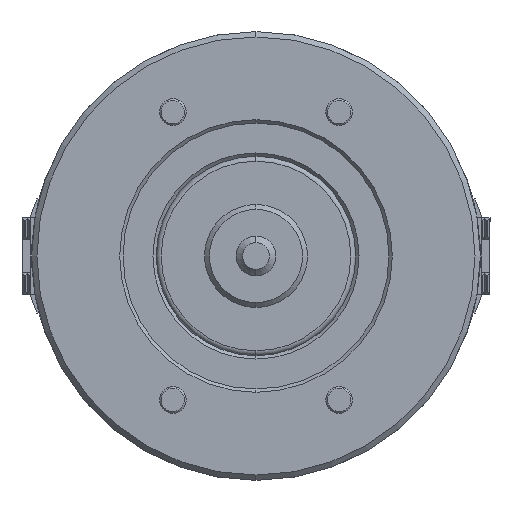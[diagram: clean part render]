
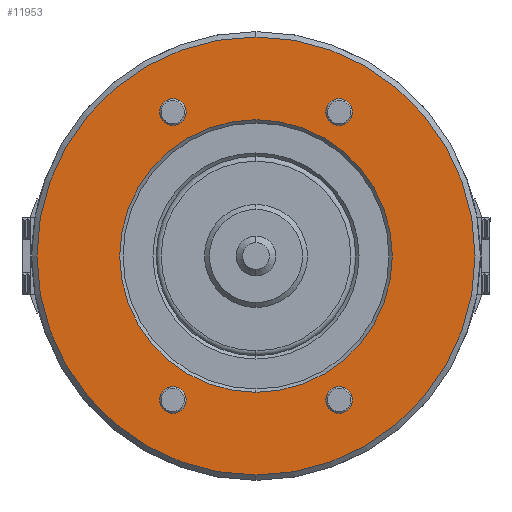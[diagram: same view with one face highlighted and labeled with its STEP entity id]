
A CAD part, left-side view. The second image highlights one B-rep face of the part: STEP entity #11953.
In plain terms, the highlighted planar face has unit normal (-1, 0, 0) as drawn and (0, 0, -1) by its records, which use the part's own axes.
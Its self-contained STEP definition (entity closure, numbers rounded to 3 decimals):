
#203 = AXIS2_PLACEMENT_3D ( 'NONE', #34313, #15846, #37406 ) ;
#1083 = VERTEX_POINT ( 'NONE', #26701 ) ;
#1639 = DIRECTION ( 'NONE',  ( 1., 0., 0. ) ) ;
#1748 = VERTEX_POINT ( 'NONE', #15203 ) ;
#1785 = DIRECTION ( 'NONE',  ( 1., 0., 0. ) ) ;
#2116 = DIRECTION ( 'NONE',  ( 0., 0., -1. ) ) ;
#2649 = EDGE_LOOP ( 'NONE', ( #19943, #29601 ) ) ;
#2909 = DIRECTION ( 'NONE',  ( 1., 0., 0. ) ) ;
#4470 = CARTESIAN_POINT ( 'NONE',  ( 43.301, -25., -55. ) ) ;
#4558 = DIRECTION ( 'NONE',  ( 0., 0., -1. ) ) ;
#4794 = CIRCLE ( 'NONE', #32382, 4. ) ;
#5084 = FACE_BOUND ( 'NONE', #29169, .T. ) ;
#5456 = VERTEX_POINT ( 'NONE', #14579 ) ;
#6166 = AXIS2_PLACEMENT_3D ( 'NONE', #18427, #39959, #21533 ) ;
#6198 = EDGE_CURVE ( 'NONE', #15890, #6576, #24368, .T. ) ;
#6290 = EDGE_CURVE ( 'NONE', #25234, #1083, #11313, .T. ) ;
#6321 = EDGE_CURVE ( 'NONE', #1083, #25234, #26753, .T. ) ;
#6576 = VERTEX_POINT ( 'NONE', #12807 ) ;
#7158 = VERTEX_POINT ( 'NONE', #12758 ) ;
#7493 = CIRCLE ( 'NONE', #16713, 65.9 ) ;
#7609 = DIRECTION ( 'NONE',  ( 1., 0., 0. ) ) ;
#8345 = CARTESIAN_POINT ( 'NONE',  ( 43.301, -25., -55. ) ) ;
#8395 = AXIS2_PLACEMENT_3D ( 'NONE', #39855, #21430, #2909 ) ;
#9953 = ORIENTED_EDGE ( 'NONE', *, *, #30863, .F. ) ;
#11072 = DIRECTION ( 'NONE',  ( 0., 0., -1. ) ) ;
#11313 = CIRCLE ( 'NONE', #31762, 4. ) ;
#11422 = DIRECTION ( 'NONE',  ( 1., 0., 0. ) ) ;
#11424 = ORIENTED_EDGE ( 'NONE', *, *, #35153, .T. ) ;
#11562 = CIRCLE ( 'NONE', #15832, 4. ) ;
#11863 = DIRECTION ( 'NONE',  ( 0., 0., 1. ) ) ;
#11881 = CARTESIAN_POINT ( 'NONE',  ( 47.301, -25., -55. ) ) ;
#11953 = ADVANCED_FACE ( 'NONE', ( #37825, #28692, #5084, #21466, #20513, #36873 ), #24136, .F. ) ;
#12758 = CARTESIAN_POINT ( 'NONE',  ( -47.301, 25., -55. ) ) ;
#12807 = CARTESIAN_POINT ( 'NONE',  ( 39.301, -25., -55. ) ) ;
#12902 = CARTESIAN_POINT ( 'NONE',  ( 41., 0., -55. ) ) ;
#12904 = CIRCLE ( 'NONE', #203, 41. ) ;
#13974 = EDGE_LOOP ( 'NONE', ( #20288, #11424 ) ) ;
#14294 = ORIENTED_EDGE ( 'NONE', *, *, #23506, .F. ) ;
#14579 = CARTESIAN_POINT ( 'NONE',  ( -41., 0., -55. ) ) ;
#14949 = AXIS2_PLACEMENT_3D ( 'NONE', #23032, #4558, #26137 ) ;
#15203 = CARTESIAN_POINT ( 'NONE',  ( 65.9, 0., -55. ) ) ;
#15832 = AXIS2_PLACEMENT_3D ( 'NONE', #38621, #20197, #1639 ) ;
#15846 = DIRECTION ( 'NONE',  ( 0., 0., 1. ) ) ;
#15890 = VERTEX_POINT ( 'NONE', #11881 ) ;
#15965 = EDGE_CURVE ( 'NONE', #1748, #20804, #16313, .T. ) ;
#16281 = EDGE_CURVE ( 'NONE', #17201, #17172, #11562, .T. ) ;
#16313 = CIRCLE ( 'NONE', #8395, 65.9 ) ;
#16435 = EDGE_CURVE ( 'NONE', #37367, #7158, #4794, .T. ) ;
#16713 = AXIS2_PLACEMENT_3D ( 'NONE', #17417, #38960, #20538 ) ;
#17117 = CARTESIAN_POINT ( 'NONE',  ( -39.301, -25., -55. ) ) ;
#17139 = ORIENTED_EDGE ( 'NONE', *, *, #17919, .F. ) ;
#17172 = VERTEX_POINT ( 'NONE', #38528 ) ;
#17201 = VERTEX_POINT ( 'NONE', #17117 ) ;
#17417 = CARTESIAN_POINT ( 'NONE',  ( 0., 0., -55. ) ) ;
#17765 = CARTESIAN_POINT ( 'NONE',  ( -43.301, 25., -55. ) ) ;
#17919 = EDGE_CURVE ( 'NONE', #6576, #15890, #35012, .T. ) ;
#18000 = EDGE_LOOP ( 'NONE', ( #18988, #9953 ) ) ;
#18427 = CARTESIAN_POINT ( 'NONE',  ( 0., 0., -55. ) ) ;
#18680 = ORIENTED_EDGE ( 'NONE', *, *, #6321, .F. ) ;
#18988 = ORIENTED_EDGE ( 'NONE', *, *, #15965, .F. ) ;
#19391 = AXIS2_PLACEMENT_3D ( 'NONE', #4470, #26046, #7609 ) ;
#19470 = CIRCLE ( 'NONE', #6166, 41. ) ;
#19825 = CARTESIAN_POINT ( 'NONE',  ( -39.301, 25., -55. ) ) ;
#19943 = ORIENTED_EDGE ( 'NONE', *, *, #22049, .F. ) ;
#20197 = DIRECTION ( 'NONE',  ( 0., 0., -1. ) ) ;
#20288 = ORIENTED_EDGE ( 'NONE', *, *, #31596, .T. ) ;
#20341 = DIRECTION ( 'NONE',  ( 0., 0., -1. ) ) ;
#20427 = CARTESIAN_POINT ( 'NONE',  ( 47.301, 25., -55. ) ) ;
#20513 = FACE_BOUND ( 'NONE', #13974, .T. ) ;
#20538 = DIRECTION ( 'NONE',  ( 1., 0., 0. ) ) ;
#20651 = CARTESIAN_POINT ( 'NONE',  ( 43.301, 25., -55. ) ) ;
#20804 = VERTEX_POINT ( 'NONE', #22172 ) ;
#20872 = DIRECTION ( 'NONE',  ( 1., 0., 0. ) ) ;
#21430 = DIRECTION ( 'NONE',  ( 0., 0., 1. ) ) ;
#21464 = AXIS2_PLACEMENT_3D ( 'NONE', #38757, #20341, #1785 ) ;
#21466 = FACE_OUTER_BOUND ( 'NONE', #18000, .T. ) ;
#21533 = DIRECTION ( 'NONE',  ( 1., 0., 0. ) ) ;
#22049 = EDGE_CURVE ( 'NONE', #17172, #17201, #25862, .T. ) ;
#22172 = CARTESIAN_POINT ( 'NONE',  ( -65.9, 0., -55. ) ) ;
#23032 = CARTESIAN_POINT ( 'NONE',  ( -43.301, -25., -55. ) ) ;
#23506 = EDGE_CURVE ( 'NONE', #7158, #37367, #27707, .T. ) ;
#23742 = DIRECTION ( 'NONE',  ( 1., 0., 0. ) ) ;
#24136 = PLANE ( 'NONE',  #30877 ) ;
#24368 = CIRCLE ( 'NONE', #19391, 4. ) ;
#25234 = VERTEX_POINT ( 'NONE', #20427 ) ;
#25862 = CIRCLE ( 'NONE', #14949, 4. ) ;
#26046 = DIRECTION ( 'NONE',  ( 0., 0., -1. ) ) ;
#26137 = DIRECTION ( 'NONE',  ( 1., 0., 0. ) ) ;
#26701 = CARTESIAN_POINT ( 'NONE',  ( 39.301, 25., -55. ) ) ;
#26753 = CIRCLE ( 'NONE', #40011, 4. ) ;
#27215 = CARTESIAN_POINT ( 'NONE',  ( 0., -41., -55. ) ) ;
#27707 = CIRCLE ( 'NONE', #21464, 4. ) ;
#28692 = FACE_BOUND ( 'NONE', #32643, .T. ) ;
#29169 = EDGE_LOOP ( 'NONE', ( #39962, #17139 ) ) ;
#29288 = ORIENTED_EDGE ( 'NONE', *, *, #6290, .F. ) ;
#29522 = CARTESIAN_POINT ( 'NONE',  ( 43.301, 25., -55. ) ) ;
#29601 = ORIENTED_EDGE ( 'NONE', *, *, #16281, .F. ) ;
#29731 = EDGE_LOOP ( 'NONE', ( #14294, #30919 ) ) ;
#29867 = DIRECTION ( 'NONE',  ( 0., 0., -1. ) ) ;
#30863 = EDGE_CURVE ( 'NONE', #20804, #1748, #7493, .T. ) ;
#30877 = AXIS2_PLACEMENT_3D ( 'NONE', #27215, #11863, #33393 ) ;
#30919 = ORIENTED_EDGE ( 'NONE', *, *, #16435, .F. ) ;
#31596 = EDGE_CURVE ( 'NONE', #5456, #31732, #19470, .T. ) ;
#31732 = VERTEX_POINT ( 'NONE', #12902 ) ;
#31762 = AXIS2_PLACEMENT_3D ( 'NONE', #29522, #11072, #32630 ) ;
#32382 = AXIS2_PLACEMENT_3D ( 'NONE', #17765, #39297, #20872 ) ;
#32630 = DIRECTION ( 'NONE',  ( 1., 0., 0. ) ) ;
#32643 = EDGE_LOOP ( 'NONE', ( #29288, #18680 ) ) ;
#33393 = DIRECTION ( 'NONE',  ( 1., 0., 0. ) ) ;
#34313 = CARTESIAN_POINT ( 'NONE',  ( 0., 0., -55. ) ) ;
#35012 = CIRCLE ( 'NONE', #36800, 4. ) ;
#35153 = EDGE_CURVE ( 'NONE', #31732, #5456, #12904, .T. ) ;
#36800 = AXIS2_PLACEMENT_3D ( 'NONE', #8345, #29867, #11422 ) ;
#36873 = FACE_BOUND ( 'NONE', #29731, .T. ) ;
#37367 = VERTEX_POINT ( 'NONE', #19825 ) ;
#37406 = DIRECTION ( 'NONE',  ( 1., 0., 0. ) ) ;
#37825 = FACE_BOUND ( 'NONE', #2649, .T. ) ;
#38528 = CARTESIAN_POINT ( 'NONE',  ( -47.301, -25., -55. ) ) ;
#38621 = CARTESIAN_POINT ( 'NONE',  ( -43.301, -25., -55. ) ) ;
#38757 = CARTESIAN_POINT ( 'NONE',  ( -43.301, 25., -55. ) ) ;
#38960 = DIRECTION ( 'NONE',  ( 0., 0., 1. ) ) ;
#39297 = DIRECTION ( 'NONE',  ( 0., 0., -1. ) ) ;
#39855 = CARTESIAN_POINT ( 'NONE',  ( 0., 0., -55. ) ) ;
#39959 = DIRECTION ( 'NONE',  ( 0., 0., 1. ) ) ;
#39962 = ORIENTED_EDGE ( 'NONE', *, *, #6198, .F. ) ;
#40011 = AXIS2_PLACEMENT_3D ( 'NONE', #20651, #2116, #23742 ) ;
